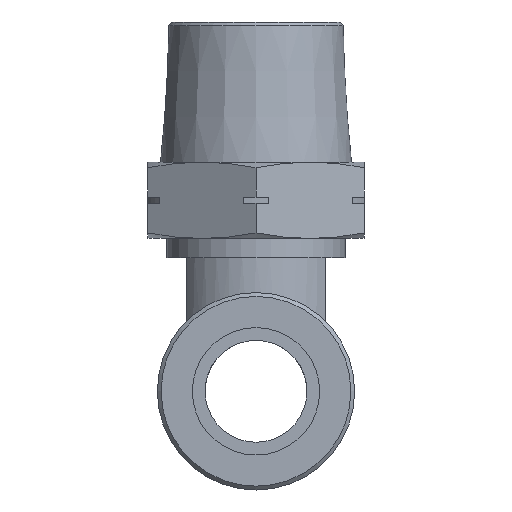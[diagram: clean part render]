
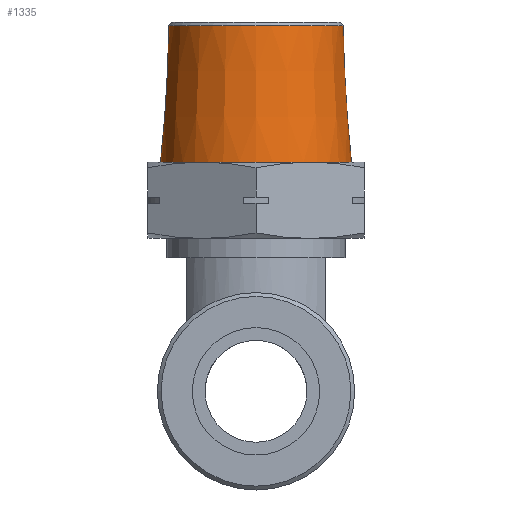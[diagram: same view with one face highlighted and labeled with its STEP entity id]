
A CAD part, front view. The second image highlights one B-rep face of the part: STEP entity #1335.
In plain terms, the highlighted conical face has half-angle 3.5 degrees and reference radius 7.164 mm.
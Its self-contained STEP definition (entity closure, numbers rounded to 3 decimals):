
#32=CONICAL_SURFACE('',#1462,7.164,0.061);
#126=FACE_OUTER_BOUND('',#212,.T.);
#212=EDGE_LOOP('',(#962,#963,#964,#965,#966));
#305=CIRCLE('',#1460,6.846);
#306=CIRCLE('',#1461,6.846);
#307=CIRCLE('',#1463,7.5);
#412=LINE('',#2168,#504);
#504=VECTOR('',#1716,7.164);
#600=VERTEX_POINT('',#2161);
#601=VERTEX_POINT('',#2163);
#602=VERTEX_POINT('',#2167);
#741=EDGE_CURVE('',#600,#601,#305,.T.);
#742=EDGE_CURVE('',#601,#600,#306,.T.);
#743=EDGE_CURVE('',#601,#602,#412,.T.);
#744=EDGE_CURVE('',#602,#602,#307,.T.);
#962=ORIENTED_EDGE('',*,*,#741,.F.);
#963=ORIENTED_EDGE('',*,*,#742,.F.);
#964=ORIENTED_EDGE('',*,*,#743,.T.);
#965=ORIENTED_EDGE('',*,*,#744,.F.);
#966=ORIENTED_EDGE('',*,*,#743,.F.);
#1335=ADVANCED_FACE('',(#126),#32,.T.);
#1460=AXIS2_PLACEMENT_3D('',#2164,#1710,#1711);
#1461=AXIS2_PLACEMENT_3D('',#2165,#1712,#1713);
#1462=AXIS2_PLACEMENT_3D('',#2166,#1714,#1715);
#1463=AXIS2_PLACEMENT_3D('',#2169,#1717,#1718);
#1710=DIRECTION('center_axis',(0.,0.,1.));
#1711=DIRECTION('ref_axis',(0.,-1.,0.));
#1712=DIRECTION('center_axis',(0.,0.,1.));
#1713=DIRECTION('ref_axis',(0.,-1.,0.));
#1714=DIRECTION('center_axis',(0.,0.,-1.));
#1715=DIRECTION('ref_axis',(0.,1.,0.));
#1716=DIRECTION('',(0.,-0.061,-0.998));
#1717=DIRECTION('center_axis',(0.,0.,-1.));
#1718=DIRECTION('ref_axis',(0.,1.,0.));
#2161=CARTESIAN_POINT('',(0.,6.846,28.701));
#2163=CARTESIAN_POINT('',(0.,-6.846,28.701));
#2164=CARTESIAN_POINT('Origin',(0.,0.,28.701));
#2165=CARTESIAN_POINT('Origin',(0.,0.,28.701));
#2166=CARTESIAN_POINT('Origin',(0.,0.,23.5));
#2167=CARTESIAN_POINT('',(0.,-7.5,18.));
#2168=CARTESIAN_POINT('',(0.,-7.164,23.5));
#2169=CARTESIAN_POINT('Origin',(0.,0.,18.));
